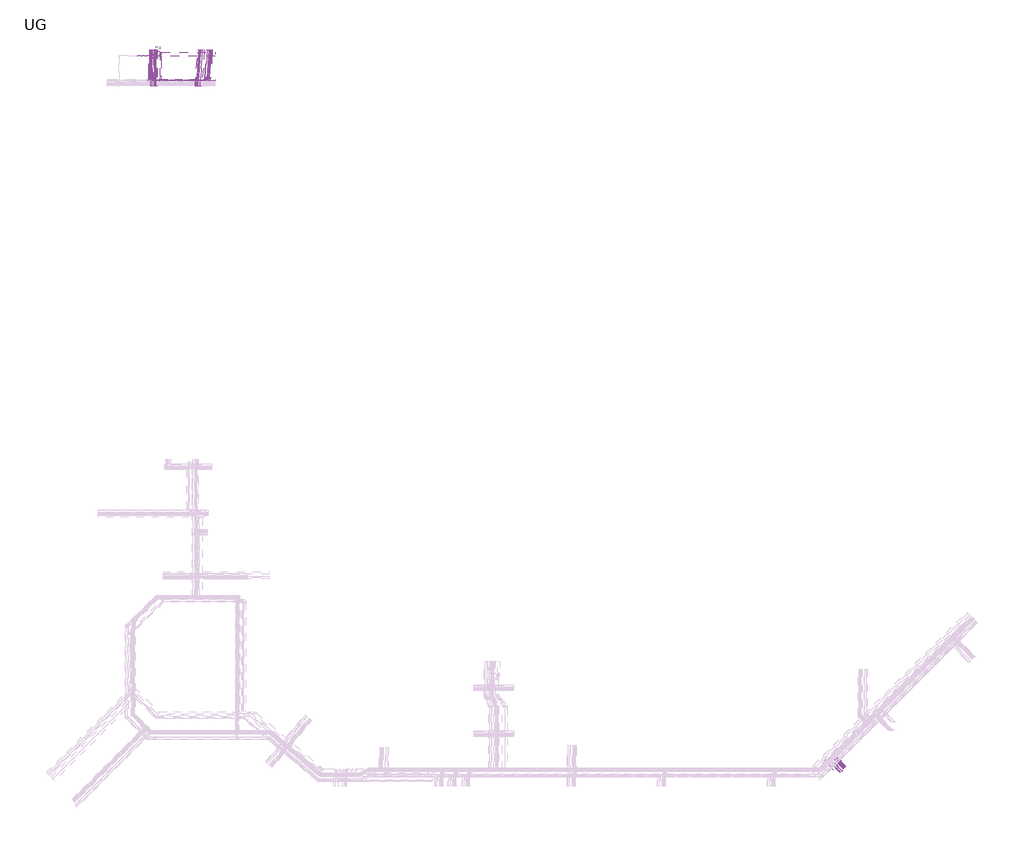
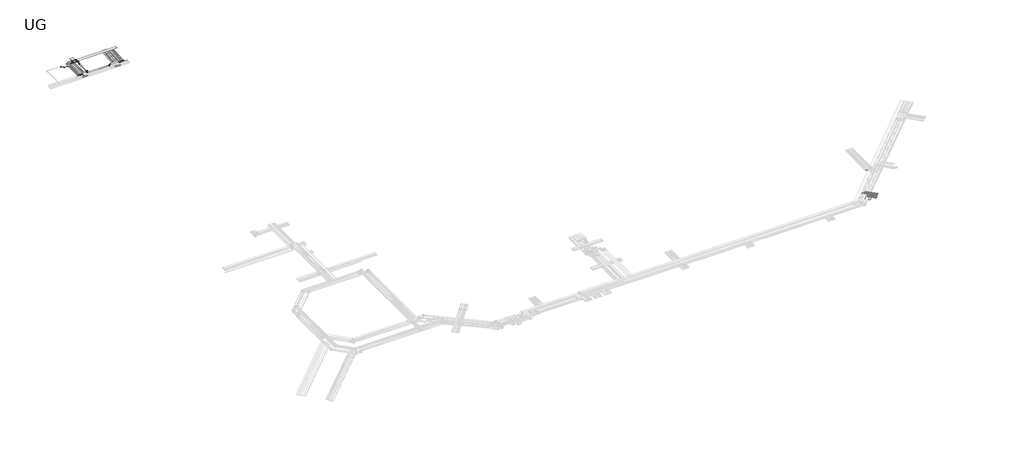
# One storey, part 13 of 14: 64 cable carrier segments, 41 cable carrier fittings.
"""IFC4 building model written with IfcOpenShell, lengths in millimetres."""

from ifc_helpers import new_model, si_unit, frame, origin, place, context, project, spatial, polyline, outline, extrude, transform, mapped, element, save
from components import cable_tray_horizontal_bend_a37de1d9, cable_tray_horizontal_bend_59db2054, cable_tray_horizontal_bend_3e94afd1, cable_tray_horizontal_bend_47e02f7b, cable_tray_horizontal_bend_91100278, cable_tray_horizontal_bend_1fa7739e, cable_tray_horizontal_tee_d71a0caa, cable_tray_horizontal_tee_ce7846fd, cable_tray_horizontal_tee_29fe30fd, cable_tray_reducer_7497fd97, cable_tray_vertical_inside_bend_f6baaffd, cable_tray_vertical_inside_bend_de01723b, cable_tray_vertical_outside_bend_a3d3d836, cable_tray_vertical_outside_bend_fceaed45, cable_tray_vertical_outside_bend_b6a104fe, cable_tray_vertical_outside_bend_59e16c32

model = new_model("IFC4")

# Units and contexts
model_context = context("Model", 3, world=origin())
ifc_project = project(units=[si_unit("LENGTHUNIT", "METRE", prefix="MILLI")], contexts=[model_context])

# Site, building, storey
site = spatial("IfcSite", under=ifc_project)
building = spatial("IfcBuilding", under=site)
storey = spatial("IfcBuildingStorey", under=building, Name="UG", Elevation=7925.0)

# Cable carrier fittings
placement = place(None, origin())
cable_tray_horizontal_bend_shape = cable_tray_horizontal_bend_a37de1d9(model_context)
element("IfcCableCarrierFitting", 1, ObjectType="Cable Tray Horizontal Bend : ELEC_ELV_TKG_N2402", at=placement, inside=storey, context=model_context, shape_type="MappedRepresentation", body=[
    mapped(cable_tray_horizontal_bend_shape, transform((91400.0, 192741.4213562, 12700.0), x_axis=(0.0, 0.7071067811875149, -0.7071067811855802), y_axis=(0.0, 0.7071067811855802, 0.7071067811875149), z_axis=(1.0, 0.0, 0.0))),
])
element("IfcCableCarrierFitting", 2, ObjectType="Cable Tray Horizontal Bend : ELEC_ELV_TKG_N2402", at=placement, inside=storey, context=model_context, shape_type="MappedRepresentation", body=[
    mapped(cable_tray_horizontal_bend_shape, transform((91550.0, 192741.4213562, 12700.0), x_axis=(0.0, 0.7071067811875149, -0.7071067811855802), y_axis=(0.0, 0.7071067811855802, 0.7071067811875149), z_axis=(1.0, 0.0, 0.0))),
])
element("IfcCableCarrierFitting", 3, ObjectType="Cable Tray Horizontal Bend : ELEC_ELV_TKG_N2402", at=placement, inside=storey, context=model_context, shape_type="MappedRepresentation", body=[
    mapped(cable_tray_horizontal_bend_shape, transform((263892.2929149, 37602.4588136, 13124.9999954), x_axis=(0.0, -1.0, 0.0), y_axis=(1.0, 0.0, 0.0), z_axis=(0.0, 0.0, 1.0))),
])
cable_tray_horizontal_bend_2_shape = cable_tray_horizontal_bend_59db2054(model_context)
element("IfcCableCarrierFitting", 4, ObjectType="Cable Tray Horizontal Bend : ELEC_ELV_TKG_N2402", at=placement, inside=storey, context=model_context, shape_type="MappedRepresentation", body=[
    mapped(cable_tray_horizontal_bend_2_shape, transform((91725.0, 192700.0, 12725.0), x_axis=(0.0, -1.0, 0.0), y_axis=(0.0, 0.0, 1.0), z_axis=(-1.0, 0.0, 0.0))),
])
element("IfcCableCarrierFitting", 5, ObjectType="Cable Tray Horizontal Bend : ELEC_ELV_TKG_N2402", at=placement, inside=storey, context=model_context, shape_type="MappedRepresentation", body=[
    mapped(cable_tray_horizontal_bend_2_shape, transform((91225.0, 192700.0, 12725.0), x_axis=(0.0, -1.0, 0.0), y_axis=(0.0, 0.0, 1.0), z_axis=(-1.0, 0.0, 0.0))),
])
cable_tray_horizontal_bend_3_shape = cable_tray_horizontal_bend_3e94afd1(model_context)
element("IfcCableCarrierFitting", 6, ObjectType="Cable Tray Horizontal Bend : ELEC_ELV_TKG_N2402", at=placement, inside=storey, context=model_context, shape_type="MappedRepresentation", body=[
    mapped(cable_tray_horizontal_bend_3_shape, transform((92200.0, 192700.0, 12725.0), x_axis=(0.0, -1.0, 0.0), y_axis=(0.0, 0.0, 1.0), z_axis=(-1.0, 0.0, 0.0))),
])
cable_tray_horizontal_bend_4_shape = cable_tray_horizontal_bend_47e02f7b(model_context)
element("IfcCableCarrierFitting", 7, ObjectType="Cable Tray Horizontal Bend : ELEC_ELV_TKG_N2402", at=placement, inside=storey, context=model_context, shape_type="MappedRepresentation", body=[
    mapped(cable_tray_horizontal_bend_4_shape, transform((104830.1960207, 192700.0, 12725.0), x_axis=(-0.06690691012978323, -0.9977592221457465, 0.0), y_axis=(-0.002849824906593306, 0.00019110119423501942, 0.9999959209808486), z_axis=(-0.9977551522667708, 0.06690663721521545, -0.0028562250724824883))),
])
element("IfcCableCarrierFitting", 8, ObjectType="Cable Tray Horizontal Bend : ELEC_ELV_TKG_N2402", at=placement, inside=storey, context=model_context, shape_type="MappedRepresentation", body=[
    mapped(cable_tray_horizontal_bend_4_shape, transform((105631.9926689, 192700.0, 12725.0), x_axis=(-0.06690691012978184, -0.9977592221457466, 0.0), y_axis=(-0.0028498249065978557, 0.00019110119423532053, 0.9999959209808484), z_axis=(-0.9977551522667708, 0.06690663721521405, -0.002856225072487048))),
])
element("IfcCableCarrierFitting", 9, ObjectType="Cable Tray Horizontal Bend : ELEC_ELV_TKG_N2402", at=placement, inside=storey, context=model_context, shape_type="MappedRepresentation", body=[
    mapped(cable_tray_horizontal_bend_4_shape, transform((106133.115574, 192700.0, 12725.0), x_axis=(-0.06690691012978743, -0.9977592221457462, 0.0), y_axis=(-0.0028498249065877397, 0.00019110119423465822, 0.9999959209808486), z_axis=(-0.9977551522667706, 0.06690663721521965, -0.0028562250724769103))),
])
cable_tray_horizontal_bend_5_shape = cable_tray_horizontal_bend_91100278(model_context)
element("IfcCableCarrierFitting", 10, ObjectType="Cable Tray Horizontal Bend : ELEC_ELV_TKG_N2402", at=placement, inside=storey, context=model_context, shape_type="MappedRepresentation", body=[
    mapped(cable_tray_horizontal_bend_5_shape, transform((105155.925909, 192700.0, 12725.0), x_axis=(-0.06690691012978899, -0.9977592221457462, 0.0), y_axis=(-0.002849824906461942, 0.00019110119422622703, 0.9999959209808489), z_axis=(-0.9977551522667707, 0.06690663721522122, -0.00285622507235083))),
])
cable_tray_horizontal_bend_6_shape = cable_tray_horizontal_bend_1fa7739e(model_context)
element("IfcCableCarrierFitting", 11, ObjectType="Cable Tray Horizontal Bend : ELEC_ELV_TKG_N2402", at=placement, inside=storey, context=model_context, shape_type="MappedRepresentation", body=[
    mapped(cable_tray_horizontal_bend_6_shape, transform((105456.5996521, 192700.0, 12700.0), x_axis=(-0.06690691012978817, -0.9977592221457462, 0.0), y_axis=(-0.002849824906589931, 0.0001911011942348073, 0.9999959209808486), z_axis=(-0.9977551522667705, 0.06690663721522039, -0.002856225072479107))),
])
element("IfcCableCarrierFitting", 12, ObjectType="Cable Tray Horizontal Bend : ELEC_ELV_TKG_N2402", at=placement, inside=storey, context=model_context, shape_type="MappedRepresentation", body=[
    mapped(cable_tray_horizontal_bend_6_shape, transform((105807.3856856, 192700.0, 12700.0), x_axis=(-0.06690691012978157, -0.9977592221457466, 0.0), y_axis=(-0.0028498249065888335, 0.00019110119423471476, 0.9999959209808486), z_axis=(-0.9977551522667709, 0.0669066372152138, -0.0028562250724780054))),
])
element("IfcCableCarrierFitting", 13, ObjectType="Cable Tray Horizontal Bend : ELEC_ELV_TKG_N2402", at=placement, inside=storey, context=model_context, shape_type="MappedRepresentation", body=[
    mapped(cable_tray_horizontal_bend_6_shape, transform((105957.7225572, 192700.0, 12700.0), x_axis=(-0.06690691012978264, -0.9977592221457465, 0.0), y_axis=(-0.0028498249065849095, 0.0001911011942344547, 0.9999959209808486), z_axis=(-0.9977551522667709, 0.06690663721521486, -0.0028562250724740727))),
])
cable_tray_horizontal_tee_shape = cable_tray_horizontal_tee_d71a0caa(model_context)
element("IfcCableCarrierFitting", 14, ObjectType="Cable Tray Horizontal Tee : ELEC_ELV_TKG_N2402", at=placement, inside=storey, context=model_context, shape_type="MappedRepresentation", body=[
    mapped(cable_tray_horizontal_tee_shape, transform((92525.0, 192125.0, 12725.0), x_axis=(-1.0, 0.0, 0.0), y_axis=(0.0, -1.0, 0.0), z_axis=(0.0, 0.0, 1.0))),
])
cable_tray_horizontal_tee_2_shape = cable_tray_horizontal_tee_ce7846fd(model_context)
element("IfcCableCarrierFitting", 15, ObjectType="Cable Tray Horizontal Tee : ELEC_MAIN_CT_N2402", at=placement, inside=storey, context=model_context, shape_type="MappedRepresentation", body=[
    mapped(cable_tray_horizontal_tee_2_shape, transform((94112.5610141, 198450.0, 13500.0), x_axis=(1.0, 0.0, 0.0), y_axis=(0.0, 1.0, 0.0), z_axis=(0.0, 0.0, 1.0))),
])
cable_tray_horizontal_tee_3_shape = cable_tray_horizontal_tee_29fe30fd(model_context)
element("IfcCableCarrierFitting", 16, ObjectType="Cable Tray Horizontal Tee : ELEC_MAIN_CT_N2402", at=placement, inside=storey, context=model_context, shape_type="MappedRepresentation", body=[
    mapped(cable_tray_horizontal_tee_3_shape, transform((93319.7930239, 198450.0, 13500.0), x_axis=(-1.0, 0.0, 0.0), y_axis=(0.0, -1.0, 0.0), z_axis=(0.0, 0.0, 1.0))),
])
cable_tray_reducer_shape = cable_tray_reducer_7497fd97(model_context)
element("IfcCableCarrierFitting", 17, ObjectType="Cable Tray Reducer : ELEC_MAIN_CT_N2402", at=placement, inside=storey, context=model_context, shape_type="MappedRepresentation", body=[
    mapped(cable_tray_reducer_shape, transform((92177.0250337, 198050.0, 13500.0), x_axis=(1.0, 0.0, 0.0), y_axis=(0.0, 1.0, 0.0), z_axis=(0.0, 0.0, 1.0))),
])
cable_tray_vertical_inside_bend_shape = cable_tray_vertical_inside_bend_f6baaffd(model_context)
element("IfcCableCarrierFitting", 18, ObjectType="Cable Tray Vertical Inside Bend : ELEC_SUB_CT_N2402", at=placement, inside=storey, context=model_context, shape_type="MappedRepresentation", body=[
    mapped(cable_tray_vertical_inside_bend_shape, transform((94050.0000002, 192150.0, 13050.0), x_axis=(0.7071067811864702, 0.0, -0.707106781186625), y_axis=(0.707106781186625, 0.0, 0.7071067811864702), z_axis=(0.0, -1.0, 0.0))),
])
element("IfcCableCarrierFitting", 19, ObjectType="Cable Tray Vertical Inside Bend : ELEC_SUB_CT_N2402", at=placement, inside=storey, context=model_context, shape_type="MappedRepresentation", body=[
    mapped(cable_tray_vertical_inside_bend_shape, transform((101301.5421628, 192150.0, 13050.0), x_axis=(-0.707106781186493, 0.0, -0.7071067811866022), y_axis=(-0.7071067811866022, 0.0, 0.707106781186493), z_axis=(0.0, 1.0, 0.0))),
])
cable_tray_vertical_inside_bend_2_shape = cable_tray_vertical_inside_bend_de01723b(model_context)
element("IfcCableCarrierFitting", 20, ObjectType="Cable Tray Vertical Inside Bend : ELEC_MAIN_CT_N2402", at=placement, inside=storey, context=model_context, shape_type="MappedRepresentation", body=[
    mapped(cable_tray_vertical_inside_bend_2_shape, transform((89648.5125168, 198050.0, 12860.0), x_axis=(0.8660254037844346, 0.0, -0.5000000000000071), y_axis=(0.5000000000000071, 0.0, 0.8660254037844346), z_axis=(0.0, -1.0, 0.0))),
])
element("IfcCableCarrierFitting", 21, ObjectType="Cable Tray Vertical Inside Bend : ELEC_MAIN_CT_N2402", at=placement, inside=storey, context=model_context, shape_type="MappedRepresentation", body=[
    mapped(cable_tray_vertical_inside_bend_2_shape, transform((90768.5125168, 198050.0, 12860.0), x_axis=(1.0, 0.0, 0.0), y_axis=(0.0, 0.0, 1.0), z_axis=(0.0, -1.0, 0.0))),
])
element("IfcCableCarrierFitting", 22, ObjectType="Cable Tray Vertical Inside Bend : ELEC_MAIN_CT_N2402", at=placement, inside=storey, context=model_context, shape_type="MappedRepresentation", body=[
    mapped(cable_tray_vertical_inside_bend_2_shape, transform((91877.0250337, 198050.0, 13500.0), x_axis=(0.8660254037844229, 0.0, 0.5000000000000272), y_axis=(0.5000000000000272, 0.0, -0.8660254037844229), z_axis=(0.0, 1.0, 0.0))),
])
element("IfcCableCarrierFitting", 23, ObjectType="Cable Tray Vertical Inside Bend : ELEC_MAIN_CT_N2402", at=placement, inside=storey, context=model_context, shape_type="MappedRepresentation", body=[
    mapped(cable_tray_vertical_inside_bend_2_shape, transform((88540.0, 198050.0, 13500.0), x_axis=(-0.8660254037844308, 0.0, 0.5000000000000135), y_axis=(-0.5000000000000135, 0.0, -0.8660254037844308), z_axis=(0.0, -1.0, 0.0))),
])
element("IfcCableCarrierFitting", 24, ObjectType="Cable Tray Vertical Inside Bend : ELEC_MAIN_CT_N2402", at=placement, inside=storey, context=model_context, shape_type="MappedRepresentation", body=[
    mapped(cable_tray_vertical_inside_bend_2_shape, transform((94112.5610141, 192390.5130103, 13600.0), x_axis=(0.0, -0.8660254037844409, 0.4999999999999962), y_axis=(0.0, -0.4999999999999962, -0.8660254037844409), z_axis=(1.0, 0.0, 0.0))),
])
element("IfcCableCarrierFitting", 25, ObjectType="Cable Tray Vertical Inside Bend : ELEC_MAIN_CT_N2402", at=placement, inside=storey, context=model_context, shape_type="MappedRepresentation", body=[
    mapped(cable_tray_vertical_inside_bend_2_shape, transform((94112.5610141, 193083.3333333, 13200.0), x_axis=(0.0, 0.8660254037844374, -0.5000000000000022), y_axis=(0.0, 0.5000000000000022, 0.8660254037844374), z_axis=(1.0, 0.0, 0.0))),
])
element("IfcCableCarrierFitting", 26, ObjectType="Cable Tray Vertical Inside Bend : ELEC_MAIN_CT_N2402", at=placement, inside=storey, context=model_context, shape_type="MappedRepresentation", body=[
    mapped(cable_tray_vertical_inside_bend_2_shape, transform((94112.5610141, 197083.3333333, 13200.0), x_axis=(0.0, 1.0, 0.0), y_axis=(0.0, 0.0, 1.0), z_axis=(1.0, 0.0, 0.0))),
])
element("IfcCableCarrierFitting", 27, ObjectType="Cable Tray Vertical Inside Bend : ELEC_MAIN_CT_N2402", at=placement, inside=storey, context=model_context, shape_type="MappedRepresentation", body=[
    mapped(cable_tray_vertical_inside_bend_2_shape, transform((94112.5610141, 197602.9485756, 13500.0), x_axis=(0.0, 0.8660254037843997, 0.5000000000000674), y_axis=(0.0, 0.5000000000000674, -0.8660254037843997), z_axis=(-1.0, 0.0, 0.0))),
])
cable_tray_vertical_outside_bend_shape = cable_tray_vertical_outside_bend_a3d3d836(model_context)
element("IfcCableCarrierFitting", 28, ObjectType="Cable Tray Vertical Outside Bend : ELEC_ELV_TKG_N2402", at=placement, inside=storey, context=model_context, shape_type="MappedRepresentation", body=[
    mapped(cable_tray_vertical_outside_bend_shape, transform((92200.0, 192400.0, 13025.0), x_axis=(0.0, -0.7071067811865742, 0.7071067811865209), y_axis=(0.0, -0.7071067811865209, -0.7071067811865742), z_axis=(1.0, 0.0, 0.0))),
])
element("IfcCableCarrierFitting", 29, ObjectType="Cable Tray Vertical Outside Bend : ELEC_ELV_TKG_N2402", at=placement, inside=storey, context=model_context, shape_type="MappedRepresentation", body=[
    mapped(cable_tray_vertical_outside_bend_shape, transform((105134.9989669, 192400.7307849, 13025.0), x_axis=(0.06975647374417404, 0.9975640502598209, 0.0), y_axis=(0.0, 0.0, -1.0), z_axis=(-0.9975640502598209, 0.06975647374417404, 0.0))),
])
cable_tray_vertical_outside_bend_2_shape = cable_tray_vertical_outside_bend_fceaed45(model_context)
element("IfcCableCarrierFitting", 30, ObjectType="Cable Tray Vertical Outside Bend : ELEC_ELV_TKG_N2402", at=placement, inside=storey, context=model_context, shape_type="MappedRepresentation", body=[
    mapped(cable_tray_vertical_outside_bend_2_shape, transform((91550.0, 192441.4213562, 13000.0), x_axis=(0.0, -0.7071067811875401, 0.7071067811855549), y_axis=(0.0, -0.7071067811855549, -0.7071067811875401), z_axis=(1.0, 0.0, 0.0))),
])
element("IfcCableCarrierFitting", 31, ObjectType="Cable Tray Vertical Outside Bend : ELEC_ELV_TKG_N2402", at=placement, inside=storey, context=model_context, shape_type="MappedRepresentation", body=[
    mapped(cable_tray_vertical_outside_bend_2_shape, transform((91400.0, 192441.4213562, 13000.0), x_axis=(0.0, -0.7071067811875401, 0.7071067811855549), y_axis=(0.0, -0.7071067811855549, -0.7071067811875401), z_axis=(1.0, 0.0, 0.0))),
])
element("IfcCableCarrierFitting", 32, ObjectType="Cable Tray Vertical Outside Bend : ELEC_ELV_TKG_N2402", at=placement, inside=storey, context=model_context, shape_type="MappedRepresentation", body=[
    mapped(cable_tray_vertical_outside_bend_2_shape, transform((105435.6727099, 192400.7307849, 13000.0), x_axis=(-0.04932527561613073, -0.705384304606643, 0.7071067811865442), y_axis=(-0.04932527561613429, -0.7053843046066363, -0.7071067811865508), z_axis=(0.9975640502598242, -0.06975647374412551, 0.0))),
])
element("IfcCableCarrierFitting", 33, ObjectType="Cable Tray Vertical Outside Bend : ELEC_ELV_TKG_N2402", at=placement, inside=storey, context=model_context, shape_type="MappedRepresentation", body=[
    mapped(cable_tray_vertical_outside_bend_2_shape, transform((105786.4587435, 192400.7307849, 13000.0), x_axis=(-0.049325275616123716, -0.7053843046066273, 0.7071067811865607), y_axis=(-0.0493252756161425, -0.7053843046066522, -0.7071067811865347), z_axis=(0.9975640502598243, -0.06975647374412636, 0.0))),
])
element("IfcCableCarrierFitting", 34, ObjectType="Cable Tray Vertical Outside Bend : ELEC_ELV_TKG_N2402", at=placement, inside=storey, context=model_context, shape_type="MappedRepresentation", body=[
    mapped(cable_tray_vertical_outside_bend_2_shape, transform((105936.7956151, 192400.7307849, 13000.0), x_axis=(-0.049325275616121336, -0.7053843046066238, 0.707106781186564), y_axis=(-0.04932527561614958, -0.705384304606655, -0.707106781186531), z_axis=(0.997564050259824, -0.06975647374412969, 0.0))),
])
cable_tray_vertical_outside_bend_3_shape = cable_tray_vertical_outside_bend_b6a104fe(model_context)
element("IfcCableCarrierFitting", 35, ObjectType="Cable Tray Vertical Outside Bend : ELEC_ELV_TKG_N2402", at=placement, inside=storey, context=model_context, shape_type="MappedRepresentation", body=[
    mapped(cable_tray_vertical_outside_bend_3_shape, transform((91725.0, 192400.0, 13025.0), x_axis=(0.0, -0.7071067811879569, 0.7071067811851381), y_axis=(0.0, -0.7071067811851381, -0.7071067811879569), z_axis=(1.0, 0.0, 0.0))),
])
element("IfcCableCarrierFitting", 36, ObjectType="Cable Tray Vertical Outside Bend : ELEC_ELV_TKG_N2402", at=placement, inside=storey, context=model_context, shape_type="MappedRepresentation", body=[
    mapped(cable_tray_vertical_outside_bend_3_shape, transform((91225.0, 192400.0, 13025.0), x_axis=(0.0, -0.7071067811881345, 0.7071067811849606), y_axis=(0.0, -0.7071067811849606, -0.7071067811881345), z_axis=(1.0, 0.0, 0.0))),
])
element("IfcCableCarrierFitting", 37, ObjectType="Cable Tray Vertical Outside Bend : ELEC_ELV_TKG_N2402", at=placement, inside=storey, context=model_context, shape_type="MappedRepresentation", body=[
    mapped(cable_tray_vertical_outside_bend_3_shape, transform((104809.2690786, 192400.7307849, 13025.0), x_axis=(-0.04932527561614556, -0.7053843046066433, 0.707106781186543), y_axis=(-0.049325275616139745, -0.7053843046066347, -0.707106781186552), z_axis=(0.9975640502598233, -0.06975647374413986, 0.0))),
])
element("IfcCableCarrierFitting", 38, ObjectType="Cable Tray Vertical Outside Bend : ELEC_ELV_TKG_N2402", at=placement, inside=storey, context=model_context, shape_type="MappedRepresentation", body=[
    mapped(cable_tray_vertical_outside_bend_3_shape, transform((105611.0657267, 192400.7307849, 13025.0), x_axis=(-0.049325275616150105, -0.7053843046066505, 0.7071067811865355), y_axis=(-0.049325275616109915, -0.7053843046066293, -0.7071067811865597), z_axis=(0.9975640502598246, -0.06975647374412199, 0.0))),
])
element("IfcCableCarrierFitting", 39, ObjectType="Cable Tray Vertical Outside Bend : ELEC_ELV_TKG_N2402", at=placement, inside=storey, context=model_context, shape_type="MappedRepresentation", body=[
    mapped(cable_tray_vertical_outside_bend_3_shape, transform((106112.1886318, 192400.7307849, 13025.0), x_axis=(-0.04932527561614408, -0.7053843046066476, 0.7071067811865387), y_axis=(-0.04932527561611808, -0.7053843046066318, -0.7071067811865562), z_axis=(0.9975640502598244, -0.0697564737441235, 0.0))),
])
cable_tray_vertical_outside_bend_4_shape = cable_tray_vertical_outside_bend_59e16c32(model_context)
element("IfcCableCarrierFitting", 40, ObjectType="Cable Tray Vertical Outside Bend : ELEC_SUB_CT_N2402", at=placement, inside=storey, context=model_context, shape_type="MappedRepresentation", body=[
    mapped(cable_tray_vertical_outside_bend_4_shape, transform((93750.0000002, 192150.0, 13350.0), x_axis=(1.0, 0.0, 0.0), y_axis=(0.0, 0.0, -1.0), z_axis=(0.0, 1.0, 0.0))),
])
element("IfcCableCarrierFitting", 41, ObjectType="Cable Tray Vertical Outside Bend : ELEC_SUB_CT_N2402", at=placement, inside=storey, context=model_context, shape_type="MappedRepresentation", body=[
    mapped(cable_tray_vertical_outside_bend_4_shape, transform((101601.5421628, 192150.0, 13350.0), x_axis=(0.7071067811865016, 0.0, 0.7071067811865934), y_axis=(0.7071067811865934, 0.0, -0.7071067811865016), z_axis=(0.0, 1.0, 0.0))),
])

# Cable carrier segments
element("IfcCableCarrierSegment", 42, ObjectType="ELEC_ELV_CT_N2402", at=placement, inside=storey, context=model_context, shape_type="SweptSolid", body=[
    extrude(outline(polyline([(256840.0714798, 27905.8888023), (256946.137497, 28011.9548195), (260101.2101631, 24856.8821535), (259995.1441459, 24750.8161363), (256840.0714798, 27905.8888023)])), frame((0.0, 0.0, 13074.9999954), z_axis=(0.0, 0.0, 1.0), x_axis=(1.0, 0.0, 0.0)), (0.0, 0.0, 1.0), 50.0),
])
element("IfcCableCarrierSegment", 43, ObjectType="ELEC_ELV_TKG_N2402", at=placement, inside=storey, context=model_context, shape_type="SweptSolid", body=[
    extrude(outline(polyline([(257317.3685613, 27923.5664677), (257388.0792394, 27994.2771458), (260313.3421974, 25069.0141878), (260242.6315193, 24998.3035097), (257317.3685613, 27923.5664677)])), frame((0.0, 0.0, 13074.9999954), z_axis=(0.0, 0.0, 1.0), x_axis=(1.0, 0.0, 0.0)), (0.0, 0.0, 1.0), 100.0),
])
element("IfcCableCarrierSegment", 44, ObjectType="ELEC_ELV_TKG_N2402", at=placement, inside=storey, context=model_context, shape_type="SweptSolid", body=[
    extrude(outline(polyline([(260419.4082146, 25175.080205), (260348.6975365, 25104.3695269), (257529.5005957, 27923.5664677), (257600.2112738, 27994.2771458), (260419.4082146, 25175.080205)])), frame((0.0, 0.0, 13074.9999954), z_axis=(0.0, 0.0, 1.0), x_axis=(1.0, 0.0, 0.0)), (0.0, 0.0, 1.0), 100.0),
])
element("IfcCableCarrierSegment", 45, ObjectType="ELEC_ELV_TKG_N2402", at=placement, inside=storey, context=model_context, shape_type="SweptSolid", body=[
    extrude(outline(polyline([(260207.2761802, 24962.9481706), (260136.5655021, 24892.2374925), (257105.236527, 27923.5664677), (257175.9472051, 27994.2771458), (260207.2761802, 24962.9481706)])), frame((0.0, 0.0, 13074.9999954), z_axis=(0.0, 0.0, 1.0), x_axis=(1.0, 0.0, 0.0)), (0.0, 0.0, 1.0), 100.0),
])
element("IfcCableCarrierSegment", 46, ObjectType="ELEC_ELV_TKG_N2402", at=placement, inside=storey, context=model_context, shape_type="SweptSolid", body=[
    extrude(outline(polyline([(257741.63263, 27923.5664677), (257847.6986472, 28029.6324849), (260560.8295708, 25316.5015612), (260454.7635537, 25210.4355441), (257741.63263, 27923.5664677)])), frame((0.0, 0.0, 13074.9999954), z_axis=(0.0, 0.0, 1.0), x_axis=(1.0, 0.0, 0.0)), (0.0, 0.0, 1.0), 150.0),
])
element("IfcCableCarrierSegment", 47, ObjectType="ELEC_ELV_TKG_N2402", at=placement, inside=storey, context=model_context, shape_type="SweptSolid", body=[
    extrude(outline(polyline([(257372.6292408, 25958.9834403), (257655.4719533, 26241.8261528), (259661.4960932, 24235.8020129), (259378.6533807, 23952.9593004), (257372.6292408, 25958.9834403)])), frame((0.0, 0.0, 13074.9999873), z_axis=(0.0, 0.0, 1.0), x_axis=(1.0, 0.0, 0.0)), (0.0, 0.0, 1.0), 150.0),
])
element("IfcCableCarrierSegment", 48, ObjectType="ELEC_ELV_TKG_N2402", at=placement, inside=storey, context=model_context, shape_type="SweptSolid", body=[
    extrude(outline(polyline([(259343.2980417, 23917.6039613), (259237.2320245, 23811.5379441), (257549.4059328, 25499.3640358), (257655.47195, 25605.430053), (259343.2980417, 23917.6039613)])), frame((0.0, 0.0, 13074.9999873), z_axis=(0.0, 0.0, 1.0), x_axis=(1.0, 0.0, 0.0)), (0.0, 0.0, 1.0), 150.0),
])
element("IfcCableCarrierSegment", 49, ObjectType="ELEC_ELV_TKG_N2402", at=placement, inside=storey, context=model_context, shape_type="SweptSolid", body=[
    extrude(outline(polyline([(259767.5621104, 24341.86803), (259696.8514323, 24271.1573519), (257584.7612751, 26383.247509), (257655.4719533, 26453.9581871), (259767.5621104, 24341.86803)])), frame((0.0, 0.0, 13074.9999954), z_axis=(0.0, 0.0, 1.0), x_axis=(1.0, 0.0, 0.0)), (0.0, 0.0, 1.0), 100.0),
])
element("IfcCableCarrierSegment", 50, ObjectType="ELEC_ELV_TKG_N2402", at=placement, inside=storey, context=model_context, shape_type="SweptSolid", body=[
    extrude(outline(polyline([(258024.4753425, 27923.5664677), (258130.5413597, 28029.6324849), (260702.2509271, 25457.9229175), (260596.1849099, 25351.8569003), (258024.4753425, 27923.5664677)])), frame((0.0, 0.0, 13074.9999954), z_axis=(0.0, 0.0, 1.0), x_axis=(1.0, 0.0, 0.0)), (0.0, 0.0, 1.0), 150.0),
])
element("IfcCableCarrierSegment", 51, ObjectType="ELEC_MAIN_CT_N2402", at=placement, inside=storey, context=model_context, shape_type="SweptSolid", body=[
    extrude(outline(polyline([(255486.8442113, 26853.4165815), (256242.0721373, 27508.8788456), (258355.9379392, 25073.2687842), (257600.7100131, 24417.80652), (255486.8442113, 26853.4165815)])), frame((0.0, 0.0, 12650.0), z_axis=(0.0, 0.0, 1.0), x_axis=(1.0, 0.0, 0.0)), (0.0, 0.0, 1.0), 50.0),
])
element("IfcCableCarrierSegment", 52, ObjectType="ELEC_ELV_TKG_N2402", at=placement, inside=storey, context=model_context, shape_type="SweptSolid", body=[
    extrude(outline(polyline([(91300.0, 192762.1320344), (91150.0, 192762.1320344), (91150.0, 199500.0), (91300.0, 199500.0), (91300.0, 192762.1320344)])), frame((0.0, 0.0, 12650.0), z_axis=(0.0, 0.0, 1.0), x_axis=(1.0, 0.0, 0.0)), (0.0, 0.0, 1.0), 150.0),
])
element("IfcCableCarrierSegment", 53, ObjectType="ELEC_ELV_TKG_N2402", at=placement, inside=storey, context=model_context, shape_type="SweptSolid", body=[
    extrude(outline(polyline([(91450.0, 192782.8427125), (91350.0, 192782.8427125), (91350.0, 199500.0), (91450.0, 199500.0), (91450.0, 192782.8427125)])), frame((0.0, 0.0, 12650.0), z_axis=(0.0, 0.0, 1.0), x_axis=(1.0, 0.0, 0.0)), (0.0, 0.0, 1.0), 100.0),
])
element("IfcCableCarrierSegment", 54, ObjectType="ELEC_ELV_TKG_N2402", at=placement, inside=storey, context=model_context, shape_type="SweptSolid", body=[
    extrude(outline(polyline([(91600.0, 192782.8427125), (91500.0, 192782.8427125), (91500.0, 199500.0), (91600.0, 199500.0), (91600.0, 192782.8427125)])), frame((0.0, 0.0, 12650.0), z_axis=(0.0, 0.0, 1.0), x_axis=(1.0, 0.0, 0.0)), (0.0, 0.0, 1.0), 100.0),
])
element("IfcCableCarrierSegment", 55, ObjectType="ELEC_ELV_TKG_N2402", at=placement, inside=storey, context=model_context, shape_type="SweptSolid", body=[
    extrude(outline(polyline([(91800.0, 192762.1320344), (91650.0, 192762.1320344), (91650.0, 199500.0), (91800.0, 199500.0), (91800.0, 192762.1320344)])), frame((0.0, 0.0, 12650.0), z_axis=(0.0, 0.0, 1.0), x_axis=(1.0, 0.0, 0.0)), (0.0, 0.0, 1.0), 150.0),
])
element("IfcCableCarrierSegment", 56, ObjectType="ELEC_ELV_TKG_N2402", at=placement, inside=storey, context=model_context, shape_type="SweptSolid", body=[
    extrude(outline(polyline([(91850.0, 199500.0), (91950.0, 199500.0), (91950.0, 192782.8427125), (91850.0, 192782.8427125), (91850.0, 199500.0)])), frame((0.0, 0.0, 12650.0), z_axis=(0.0, 0.0, 1.0), x_axis=(1.0, 0.0, 0.0)), (0.0, 0.0, 1.0), 100.0),
])
element("IfcCableCarrierSegment", 57, ObjectType="ELEC_ELV_TKG_N2402", at=placement, inside=storey, context=model_context, shape_type="SweptSolid", body=[
    extrude(outline(polyline([(92000.0, 199500.0), (92400.0, 199500.0), (92400.0, 192813.9087297), (92000.0, 192813.9087297), (92000.0, 199500.0)])), frame((0.0, 0.0, 12650.0), z_axis=(0.0, 0.0, 1.0), x_axis=(1.0, 0.0, 0.0)), (0.0, 0.0, 1.0), 150.0),
])
element("IfcCableCarrierSegment", 58, ObjectType="ELEC_ELV_TKG_N2402", at=placement, inside=storey, context=model_context, shape_type="SweptSolid", body=[
    extrude(outline(polyline([(92600.0, 192250.0), (92450.0, 192250.0), (92450.0, 199500.0), (92600.0, 199500.0), (92600.0, 192250.0)])), frame((0.0, 0.0, 12650.0), z_axis=(0.0, 0.0, 1.0), x_axis=(1.0, 0.0, 0.0)), (0.0, 0.0, 1.0), 150.0),
])
element("IfcCableCarrierSegment", 59, ObjectType="ELEC_ELV_TKG_N2402", at=placement, inside=storey, context=model_context, shape_type="SweptSolid", body=[
    extrude(outline(polyline([(107313.684735, 192200.0), (107313.684735, 192050.0), (92650.0, 192050.0), (92650.0, 192200.0), (107313.684735, 192200.0)])), frame((0.0, 0.0, 12650.0), z_axis=(0.0, 0.0, 1.0), x_axis=(1.0, 0.0, 0.0)), (0.0, 0.0, 1.0), 150.0),
])
element("IfcCableCarrierSegment", 60, ObjectType="ELEC_ELV_TKG_N2402", at=placement, inside=storey, context=model_context, shape_type="SweptSolid", body=[
    extrude(outline(polyline([(0.0, -400.0), (0.0, 0.0), (196.4466093, 0.0), (196.4466093, -400.0), (0.0, -400.0)])), frame((92400.0, 192566.4213562, 12752.5126266), z_axis=(0.0, 0.7071067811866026, 0.7071067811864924), x_axis=(0.0, -0.7071067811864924, 0.7071067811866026)), (0.0, 0.0, 1.0), 150.0),
])
element("IfcCableCarrierSegment", 61, ObjectType="ELEC_ELV_TKG_N2402", at=placement, inside=storey, context=model_context, shape_type="SweptSolid", body=[
    extrude(outline(polyline([(92000.0, 192286.0912704), (92400.0, 192286.0912704), (92400.0, 191975.0), (92000.0, 191975.0), (92000.0, 192286.0912704)])), frame((0.0, 0.0, 12950.0), z_axis=(0.0, 0.0, 1.0), x_axis=(1.0, 0.0, 0.0)), (0.0, 0.0, 1.0), 150.0),
])
element("IfcCableCarrierSegment", 62, ObjectType="ELEC_ELV_TKG_N2402", at=placement, inside=storey, context=model_context, shape_type="SweptSolid", body=[
    extrude(outline(polyline([(0.0, -100.0), (0.0, 0.0), (341.4213563, 0.0), (341.4213563, -100.0), (0.0, -100.0)])), frame((91600.0, 192676.7766953, 12693.9339828), z_axis=(0.0, 0.7071067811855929, 0.7071067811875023), x_axis=(0.0, -0.7071067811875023, 0.7071067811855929)), (0.0, 0.0, 1.0), 100.0),
])
element("IfcCableCarrierSegment", 63, ObjectType="ELEC_ELV_TKG_N2402", at=placement, inside=storey, context=model_context, shape_type="SweptSolid", body=[
    extrude(outline(polyline([(0.0, -100.0), (0.0, 0.0), (341.4213563, 0.0), (341.4213563, -100.0), (0.0, -100.0)])), frame((91450.0, 192676.7766953, 12693.9339828), z_axis=(0.0, 0.7071067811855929, 0.7071067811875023), x_axis=(0.0, -0.7071067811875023, 0.7071067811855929)), (0.0, 0.0, 1.0), 100.0),
])
element("IfcCableCarrierSegment", 64, ObjectType="ELEC_ELV_TKG_N2402", at=placement, inside=storey, context=model_context, shape_type="SweptSolid", body=[
    extrude(outline(polyline([(0.0, -150.0), (0.0, 0.0), (300.0000001, 0.0), (300.0000001, -150.0), (0.0, -150.0)])), frame((91300.0, 192603.0330086, 12715.9009742), z_axis=(0.0, 0.7071067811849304, 0.7071067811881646), x_axis=(0.0, -0.7071067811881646, 0.7071067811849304)), (0.0, 0.0, 1.0), 150.0),
])
element("IfcCableCarrierSegment", 65, ObjectType="ELEC_ELV_TKG_N2402", at=placement, inside=storey, context=model_context, shape_type="SweptSolid", body=[
    extrude(outline(polyline([(104909.1850488, 192756.9751496), (104759.5211654, 192767.0111861), (105211.0081472, 199499.8777744), (105360.6720305, 199489.8417379), (104909.1850488, 192756.9751496)])), frame((0.0, 0.0, 12650.0), z_axis=(0.0, 0.0, 1.0), x_axis=(1.0, 0.0, 0.0)), (0.0, 0.0, 1.0), 150.0),
])
element("IfcCableCarrierSegment", 66, ObjectType="ELEC_ELV_TKG_N2402", at=placement, inside=storey, context=model_context, shape_type="SweptSolid", body=[
    extrude(outline(polyline([(105411.4536638, 199499.8234103), (105810.5573526, 199473.0606463), (105363.0990785, 192800.2727591), (104963.9953897, 192827.0355232), (105411.4536638, 199499.8234103)])), frame((0.0, 0.0, 12650.0), z_axis=(0.0, 0.0, 1.0), x_axis=(1.0, 0.0, 0.0)), (0.0, 0.0, 1.0), 150.0),
])
element("IfcCableCarrierSegment", 67, ObjectType="ELEC_ELV_TKG_N2402", at=placement, inside=storey, context=model_context, shape_type="SweptSolid", body=[
    extrude(outline(polyline([(105509.2590041, 192737.9834331), (105409.4830819, 192744.6741241), (105862.4705592, 199499.9170746), (105962.2464814, 199493.2263835), (105509.2590041, 192737.9834331)])), frame((0.0, 0.0, 12650.0), z_axis=(0.0, 0.0, 1.0), x_axis=(1.0, 0.0, 0.0)), (0.0, 0.0, 1.0), 100.0),
])
element("IfcCableCarrierSegment", 68, ObjectType="ELEC_ELV_TKG_N2402", at=placement, inside=storey, context=model_context, shape_type="SweptSolid", body=[
    extrude(outline(polyline([(105710.9816969, 192756.9751496), (105561.3178136, 192767.0111861), (106014.139713, 199519.7849315), (106163.8035963, 199509.748895), (105710.9816969, 192756.9751496)])), frame((0.0, 0.0, 12650.0), z_axis=(0.0, 0.0, 1.0), x_axis=(1.0, 0.0, 0.0)), (0.0, 0.0, 1.0), 150.0),
])
element("IfcCableCarrierSegment", 69, ObjectType="ELEC_ELV_TKG_N2402", at=placement, inside=storey, context=model_context, shape_type="SweptSolid", body=[
    extrude(outline(polyline([(105860.0450377, 192737.9834331), (105760.2691155, 192744.6741241), (106213.2575428, 199499.9312425), (106313.0334651, 199493.2405514), (105860.0450377, 192737.9834331)])), frame((0.0, 0.0, 12650.0), z_axis=(0.0, 0.0, 1.0), x_axis=(1.0, 0.0, 0.0)), (0.0, 0.0, 1.0), 100.0),
])
element("IfcCableCarrierSegment", 70, ObjectType="ELEC_ELV_TKG_N2402", at=placement, inside=storey, context=model_context, shape_type="SweptSolid", body=[
    extrude(outline(polyline([(106010.3819092, 192737.9834331), (105910.605987, 192744.6741241), (106363.5943625, 199499.9304685), (106463.3702847, 199493.2397774), (106010.3819092, 192737.9834331)])), frame((0.0, 0.0, 12650.0), z_axis=(0.0, 0.0, 1.0), x_axis=(1.0, 0.0, 0.0)), (0.0, 0.0, 1.0), 100.0),
])
element("IfcCableCarrierSegment", 71, ObjectType="ELEC_ELV_TKG_N2402", at=placement, inside=storey, context=model_context, shape_type="SweptSolid", body=[
    extrude(outline(polyline([(106212.104602, 192756.9751496), (106062.4407187, 192767.0111861), (106516.7079099, 199541.3380592), (106666.3717932, 199531.3020226), (106212.104602, 192756.9751496)])), frame((0.0, 0.0, 12650.0), z_axis=(0.0, 0.0, 1.0), x_axis=(1.0, 0.0, 0.0)), (0.0, 0.0, 1.0), 150.0),
])
element("IfcCableCarrierSegment", 72, ObjectType="ELEC_ELV_TKG_N2402", at=placement, inside=storey, context=model_context, shape_type="SweptSolid", body=[
    extrude(outline(polyline([(0.0, -150.0000001), (0.0, 0.0), (299.9996416, 0.0), (299.9996416, -150.0000001), (0.0, -150.0000001)])), frame((104898.2492314, 192598.037227, 12715.9012277), z_axis=(0.049325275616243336, 0.7053843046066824, 0.7071067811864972), x_axis=(-0.049325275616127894, -0.7053843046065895, 0.707106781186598)), (0.0, 0.0, 1.0), 150.0),
])
element("IfcCableCarrierSegment", 73, ObjectType="ELEC_ELV_TKG_N2402", at=placement, inside=storey, context=model_context, shape_type="SweptSolid", body=[
    extrude(outline(polyline([(0.0, -400.0), (0.0, 0.0), (196.4459523, -1e-07), (196.4459523, -400.0000001), (0.0, -400.0)])), frame((105346.1207115, 192552.7949888, 12752.5130912), z_axis=(0.0493252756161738, 0.7053843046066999, 0.7071067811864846), x_axis=(-0.04932527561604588, -0.7053843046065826, 0.7071067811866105)), (0.0, 0.0, 1.0), 150.0),
])
element("IfcCableCarrierSegment", 74, ObjectType="ELEC_ELV_TKG_N2402", at=placement, inside=storey, context=model_context, shape_type="SweptSolid", body=[
    extrude(outline(polyline([(1e-07, -100.0), (0.0, 0.0), (341.4211173, 0.0), (341.4211174, -100.0), (1e-07, -100.0)])), frame((105501.9684592, 192632.024818, 12693.9341518), z_axis=(0.0493252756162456, 0.7053843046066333, 0.707106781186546), x_axis=(-0.04932527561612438, -0.7053843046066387, 0.7071067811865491)), (0.0, 0.0, 1.0), 100.0),
])
element("IfcCableCarrierSegment", 75, ObjectType="ELEC_ELV_TKG_N2402", at=placement, inside=storey, context=model_context, shape_type="SweptSolid", body=[
    extrude(outline(polyline([(0.0, -150.0000001), (0.0, 0.0), (299.9996416, -1e-07), (299.9996416, -150.0000001), (0.0, -150.0000001)])), frame((105700.0458796, 192598.037227, 12715.9012277), z_axis=(0.049325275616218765, 0.7053843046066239, 0.7071067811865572), x_axis=(-0.049325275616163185, -0.7053843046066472, 0.7071067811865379)), (0.0, 0.0, 1.0), 150.0),
])
element("IfcCableCarrierSegment", 76, ObjectType="ELEC_ELV_TKG_N2402", at=placement, inside=storey, context=model_context, shape_type="SweptSolid", body=[
    extrude(outline(polyline([(1e-07, -100.0000001), (0.0, 0.0), (341.4211173, 0.0), (341.4211174, -100.0000001), (1e-07, -100.0000001)])), frame((105852.7544928, 192632.024818, 12693.9341518), z_axis=(0.049325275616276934, 0.7053843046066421, 0.7071067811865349), x_axis=(-0.04932527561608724, -0.7053843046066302, 0.7071067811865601)), (0.0, 0.0, 1.0), 100.0),
])
element("IfcCableCarrierSegment", 77, ObjectType="ELEC_ELV_TKG_N2402", at=placement, inside=storey, context=model_context, shape_type="SweptSolid", body=[
    extrude(outline(polyline([(1e-07, -100.0), (0.0, 0.0), (341.4211173, 0.0), (341.4211174, -100.0), (1e-07, -100.0)])), frame((106003.0913643, 192632.024818, 12693.9341518), z_axis=(0.04932527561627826, 0.7053843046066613, 0.7071067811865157), x_axis=(-0.04932527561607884, -0.7053843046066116, 0.7071067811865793)), (0.0, 0.0, 1.0), 100.0),
])
element("IfcCableCarrierSegment", 78, ObjectType="ELEC_ELV_TKG_N2402", at=placement, inside=storey, context=model_context, shape_type="SweptSolid", body=[
    extrude(outline(polyline([(0.0, -150.0000001), (0.0, 0.0), (299.9996416, 0.0), (299.9996416, -150.0000001), (0.0, -150.0000001)])), frame((106201.1687847, 192598.037227, 12715.9012277), z_axis=(0.049325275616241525, 0.7053843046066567, 0.707106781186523), x_axis=(-0.0493252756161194, -0.7053843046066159, 0.7071067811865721)), (0.0, 0.0, 1.0), 150.0),
])
element("IfcCableCarrierSegment", 79, ObjectType="ELEC_SUB_CT_N2402", at=placement, inside=storey, context=model_context, shape_type="SweptSolid", body=[
    extrude(outline(polyline([(91043.1980515, 191950.0), (91043.1980515, 192350.0), (93656.8019486, 192350.0), (93656.8019486, 191950.0), (91043.1980515, 191950.0)])), frame((0.0, 0.0, 13325.0), z_axis=(0.0, 0.0, 1.0), x_axis=(1.0, 0.0, 0.0)), (0.0, 0.0, 1.0), 50.0),
])
element("IfcCableCarrierSegment", 80, ObjectType="ELEC_SUB_CT_N2402", at=placement, inside=storey, context=model_context, shape_type="SweptSolid", body=[
    extrude(outline(polyline([(0.0, -400.0), (0.0, 0.0), (237.8679656, 0.0), (237.8679656, -400.0), (0.0, -400.0)])), frame((93798.2233049, 192350.0, 13266.4213562), z_axis=(0.7071067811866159, 0.0, 0.7071067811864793), x_axis=(0.7071067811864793, 0.0, -0.7071067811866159)), (0.0, 0.0, 1.0), 50.0),
])
element("IfcCableCarrierSegment", 81, ObjectType="ELEC_SUB_CT_N2402", at=placement, inside=storey, context=model_context, shape_type="SweptSolid", body=[
    extrude(outline(polyline([(94143.1980517, 191950.0), (94143.1980517, 192350.0), (101208.3441113, 192350.0), (101208.3441113, 191950.0), (94143.1980517, 191950.0)])), frame((0.0, 0.0, 13025.0), z_axis=(0.0, 0.0, 1.0), x_axis=(1.0, 0.0, 0.0)), (0.0, 0.0, 1.0), 50.0),
])
element("IfcCableCarrierSegment", 82, ObjectType="ELEC_SUB_CT_N2402", at=placement, inside=storey, context=model_context, shape_type="SweptSolid", body=[
    extrude(outline(polyline([(91650.0000002, 199500.0), (92050.0000002, 199500.0), (92050.0000002, 190600.0), (91650.0000002, 190600.0), (91650.0000002, 199500.0)])), frame((0.0, 0.0, 13125.0), z_axis=(0.0, 0.0, 1.0), x_axis=(1.0, 0.0, 0.0)), (0.0, 0.0, 1.0), 50.0),
])
element("IfcCableCarrierSegment", 83, ObjectType="ELEC_SUB_CT_N2402", at=placement, inside=storey, context=model_context, shape_type="SweptSolid", body=[
    extrude(outline(polyline([(92100.0000002, 199500.0), (92500.0000002, 199500.0), (92500.0000002, 190600.0), (92100.0000002, 190600.0), (92100.0000002, 199500.0)])), frame((0.0, 0.0, 13125.0), z_axis=(0.0, 0.0, 1.0), x_axis=(1.0, 0.0, 0.0)), (0.0, 0.0, 1.0), 50.0),
])
element("IfcCableCarrierSegment", 84, ObjectType="ELEC_SUB_CT_N2402", at=placement, inside=storey, context=model_context, shape_type="SweptSolid", body=[
    extrude(outline(polyline([(92750.0000002, 190600.0), (92550.0000002, 190600.0), (92550.0000002, 199500.0), (92750.0000002, 199500.0), (92750.0000002, 190600.0)])), frame((0.0, 0.0, 13125.0), z_axis=(0.0, 0.0, 1.0), x_axis=(1.0, 0.0, 0.0)), (0.0, 0.0, 1.0), 50.0),
])
element("IfcCableCarrierSegment", 85, ObjectType="ELEC_SUB_CT_N2402", at=placement, inside=storey, context=model_context, shape_type="SweptSolid", body=[
    extrude(outline(polyline([(93000.0000002, 190600.0), (92800.0000002, 190600.0), (92800.0000002, 199500.0), (93000.0000002, 199500.0), (93000.0000002, 190600.0)])), frame((0.0, 0.0, 13125.0), z_axis=(0.0, 0.0, 1.0), x_axis=(1.0, 0.0, 0.0)), (0.0, 0.0, 1.0), 50.0),
])
element("IfcCableCarrierSegment", 86, ObjectType="ELEC_SUB_CT_N2402", at=placement, inside=storey, context=model_context, shape_type="SweptSolid", body=[
    extrude(outline(polyline([(93250.0000002, 190600.0), (93050.0000002, 190600.0), (93050.0000002, 199500.0), (93250.0000002, 199500.0), (93250.0000002, 190600.0)])), frame((0.0, 0.0, 13125.0), z_axis=(0.0, 0.0, 1.0), x_axis=(1.0, 0.0, 0.0)), (0.0, 0.0, 1.0), 50.0),
])
element("IfcCableCarrierSegment", 87, ObjectType="ELEC_SUB_CT_N2402", at=placement, inside=storey, context=model_context, shape_type="SweptSolid", body=[
    extrude(outline(polyline([(104093.6900419, 190586.618618), (103694.586353, 190613.381382), (104292.0298099, 199522.8455568), (104691.1334988, 199496.0827927), (104093.6900419, 190586.618618)])), frame((0.0, 0.0, 13025.0), z_axis=(0.0, 0.0, 1.0), x_axis=(1.0, 0.0, 0.0)), (0.0, 0.0, 1.0), 50.0),
])
element("IfcCableCarrierSegment", 88, ObjectType="ELEC_SUB_CT_N2402", at=placement, inside=storey, context=model_context, shape_type="SweptSolid", body=[
    extrude(outline(polyline([(103642.6794273, 190586.618618), (103243.5757384, 190613.381382), (103841.0214599, 199522.8793274), (104240.1251487, 199496.1165633), (103642.6794273, 190586.618618)])), frame((0.0, 0.0, 13025.0), z_axis=(0.0, 0.0, 1.0), x_axis=(1.0, 0.0, 0.0)), (0.0, 0.0, 1.0), 50.0),
])
element("IfcCableCarrierSegment", 89, ObjectType="ELEC_SUB_CT_N2402", at=placement, inside=storey, context=model_context, shape_type="SweptSolid", body=[
    extrude(outline(polyline([(103589.5649543, 199509.531716), (103789.1167987, 199496.150334), (103192.1174715, 190593.309309), (102992.5656271, 190606.690691), (103589.5649543, 199509.531716)])), frame((0.0, 0.0, 13025.0), z_axis=(0.0, 0.0, 1.0), x_axis=(1.0, 0.0, 0.0)), (0.0, 0.0, 1.0), 50.0),
])
element("IfcCableCarrierSegment", 90, ObjectType="ELEC_SUB_CT_N2402", at=placement, inside=storey, context=model_context, shape_type="SweptSolid", body=[
    extrude(outline(polyline([(103339.0047598, 199509.5504775), (103538.5566043, 199496.1690954), (102941.5560189, 190593.309309), (102742.0041745, 190606.690691), (103339.0047598, 199509.5504775)])), frame((0.0, 0.0, 13025.0), z_axis=(0.0, 0.0, 1.0), x_axis=(1.0, 0.0, 0.0)), (0.0, 0.0, 1.0), 50.0),
])
element("IfcCableCarrierSegment", 91, ObjectType="ELEC_SUB_CT_N2402", at=placement, inside=storey, context=model_context, shape_type="SweptSolid", body=[
    extrude(outline(polyline([(103088.4445654, 199509.5692389), (103287.9964098, 199496.1878569), (102690.9945664, 190593.309309), (102491.442722, 190606.690691), (103088.4445654, 199509.5692389)])), frame((0.0, 0.0, 13025.0), z_axis=(0.0, 0.0, 1.0), x_axis=(1.0, 0.0, 0.0)), (0.0, 0.0, 1.0), 50.0),
])
element("IfcCableCarrierSegment", 92, ObjectType="ELEC_SUB_CT_N2402", at=placement, inside=storey, context=model_context, shape_type="SweptSolid", body=[
    extrude(outline(polyline([(25.0, 1.5564437), (-25.0, 1.5564437), (-25.0, 401.5564437), (25.0, 401.5564437), (25.0, 1.5564437)])), frame((101367.443137, 191948.4435563, 13115.9009742), z_axis=(0.7071067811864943, 0.0, 0.7071067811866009), x_axis=(0.7071067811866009, 0.0, -0.7071067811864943)), (0.0, 0.0, 1.0), 237.8679656),
])
element("IfcCableCarrierSegment", 93, ObjectType="ELEC_SUB_CT_N2402", at=placement, inside=storey, context=model_context, shape_type="SweptSolid", body=[
    extrude(outline(polyline([(101694.7402143, 191950.0), (101694.7402143, 192350.0), (105208.3441115, 192350.0), (105208.3441115, 191950.0), (101694.7402143, 191950.0)])), frame((0.0, 0.0, 13325.0), z_axis=(0.0, 0.0, 1.0), x_axis=(1.0, 0.0, 0.0)), (0.0, 0.0, 1.0), 50.0),
])
element("IfcCableCarrierSegment", 94, ObjectType="ELEC_MAIN_CT_N2402", at=placement, inside=storey, context=model_context, shape_type="SweptSolid", body=[
    extrude(outline(polyline([(0.0, -200.0), (0.0, 0.0), (1213.0127019, 0.0), (1213.0127019, -200.0), (0.0, -200.0)])), frame((88556.506351, 198150.0, 13461.6025404), z_axis=(0.5000000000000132, 0.0, 0.866025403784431), x_axis=(0.866025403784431, 0.0, -0.5000000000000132)), (0.0, 0.0, 1.0), 50.0),
])
element("IfcCableCarrierSegment", 95, ObjectType="ELEC_MAIN_CT_N2402", at=placement, inside=storey, context=model_context, shape_type="SweptSolid", body=[
    extrude(outline(polyline([(89682.0061659, 197950.0), (89682.0061659, 198150.0), (90735.0188678, 198150.0), (90735.0188678, 197950.0), (89682.0061659, 197950.0)])), frame((0.0, 0.0, 12835.0), z_axis=(0.0, 0.0, 1.0), x_axis=(1.0, 0.0, 0.0)), (0.0, 0.0, 1.0), 50.0),
])
element("IfcCableCarrierSegment", 96, ObjectType="ELEC_MAIN_CT_N2402", at=placement, inside=storey, context=model_context, shape_type="SweptSolid", body=[
    extrude(outline(polyline([(0.0, -200.0), (0.0, 0.0), (1213.0127019, 0.0), (1213.0127019, -200.0), (0.0, -200.0)])), frame((90810.0188678, 198150.0, 12855.0961894), z_axis=(-0.500000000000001, 0.0, 0.8660254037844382), x_axis=(0.8660254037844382, 0.0, 0.500000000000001)), (0.0, 0.0, 1.0), 50.0),
])
element("IfcCableCarrierSegment", 97, ObjectType="ELEC_MAIN_CT_N2402", at=placement, inside=storey, context=model_context, shape_type="SweptSolid", body=[
    extrude(outline(polyline([(91910.5186827, 197950.0), (91910.5186827, 198150.0), (92177.0250337, 198150.0), (92177.0250337, 197950.0), (91910.5186827, 197950.0)])), frame((0.0, 0.0, 13475.0), z_axis=(0.0, 0.0, 1.0), x_axis=(1.0, 0.0, 0.0)), (0.0, 0.0, 1.0), 50.0),
])
element("IfcCableCarrierSegment", 98, ObjectType="ELEC_MAIN_CT_N2402", at=placement, inside=storey, context=model_context, shape_type="SweptSolid", body=[
    extrude(outline(polyline([(94262.5610141, 197950.0), (94262.5610141, 198950.0), (107313.684735, 198950.0), (107313.684735, 197950.0), (94262.5610141, 197950.0)])), frame((0.0, 0.0, 13475.0), z_axis=(0.0, 0.0, 1.0), x_axis=(1.0, 0.0, 0.0)), (0.0, 0.0, 1.0), 50.0),
])
element("IfcCableCarrierSegment", 99, ObjectType="ELEC_MAIN_CT_N2402", at=placement, inside=storey, context=model_context, shape_type="SweptSolid", body=[
    extrude(outline(polyline([(94212.5610141, 193116.8269824), (94012.5610141, 193116.8269824), (94012.5610141, 197049.8396843), (94212.5610141, 197049.8396843), (94212.5610141, 193116.8269824)])), frame((0.0, 0.0, 13175.0), z_axis=(0.0, 0.0, 1.0), x_axis=(1.0, 0.0, 0.0)), (0.0, 0.0, 1.0), 50.0),
])
element("IfcCableCarrierSegment", 100, ObjectType="ELEC_MAIN_CT_N2402", at=placement, inside=storey, context=model_context, shape_type="SweptSolid", body=[
    extrude(outline(polyline([(0.0, -200.0), (0.0, 0.0), (733.0127019, 0.0), (733.0127019, -200.0), (0.0, -200.0)])), frame((94212.5610141, 193041.8269824, 13195.0961894), z_axis=(0.0, 0.5000000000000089, 0.8660254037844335), x_axis=(0.0, -0.8660254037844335, 0.5000000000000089)), (0.0, 0.0, 1.0), 50.0),
])
element("IfcCableCarrierSegment", 101, ObjectType="ELEC_MAIN_CT_N2402", at=placement, inside=storey, context=model_context, shape_type="SweptSolid", body=[
    extrude(outline(polyline([(0.0, -200.0), (0.0, 0.0), (533.0127019, 0.0), (533.0127019, -200.0), (0.0, -200.0)])), frame((94012.5610141, 197124.8396843, 13195.0961894), z_axis=(0.0, -0.5000000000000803, 0.8660254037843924), x_axis=(0.0, 0.8660254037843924, 0.5000000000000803)), (0.0, 0.0, 1.0), 50.0),
])
element("IfcCableCarrierSegment", 102, ObjectType="ELEC_MAIN_CT_N2402", at=placement, inside=storey, context=model_context, shape_type="SweptSolid", body=[
    extrude(outline(polyline([(94212.5610141, 197636.4422247), (94012.5610141, 197636.4422247), (94012.5610141, 197900.0), (94212.5610141, 197900.0), (94212.5610141, 197636.4422247)])), frame((0.0, 0.0, 13475.0), z_axis=(0.0, 0.0, 1.0), x_axis=(1.0, 0.0, 0.0)), (0.0, 0.0, 1.0), 50.0),
])
element("IfcCableCarrierSegment", 103, ObjectType="ELEC_MAIN_CT_N2402", at=placement, inside=storey, context=model_context, shape_type="SweptSolid", body=[
    extrude(outline(polyline([(93869.7930239, 197950.0), (93869.7930239, 198950.0), (93962.5610141, 198950.0), (93962.5610141, 197950.0), (93869.7930239, 197950.0)])), frame((0.0, 0.0, 13475.0), z_axis=(0.0, 0.0, 1.0), x_axis=(1.0, 0.0, 0.0)), (0.0, 0.0, 1.0), 50.0),
])
element("IfcCableCarrierSegment", 104, ObjectType="ELEC_MAIN_CT_N2402", at=placement, inside=storey, context=model_context, shape_type="SweptSolid", body=[
    extrude(outline(polyline([(93819.7930239, 199000.0), (92819.7930239, 199000.0), (92819.7930239, 200300.0), (93819.7930239, 200300.0), (93819.7930239, 199000.0)])), frame((0.0, 0.0, 13475.0), z_axis=(0.0, 0.0, 1.0), x_axis=(1.0, 0.0, 0.0)), (0.0, 0.0, 1.0), 50.0),
])
element("IfcCableCarrierSegment", 105, ObjectType="ELEC_MAIN_CT_N2402", at=placement, inside=storey, context=model_context, shape_type="SweptSolid", body=[
    extrude(outline(polyline([(92677.0250337, 197950.0), (92677.0250337, 198950.0), (92769.7930239, 198950.0), (92769.7930239, 197950.0), (92677.0250337, 197950.0)])), frame((0.0, 0.0, 13475.0), z_axis=(0.0, 0.0, 1.0), x_axis=(1.0, 0.0, 0.0)), (0.0, 0.0, 1.0), 50.0),
])

save(model, "model.ifc")
